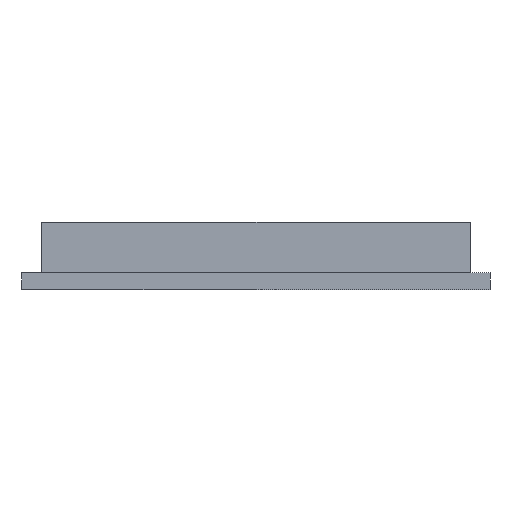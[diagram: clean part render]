
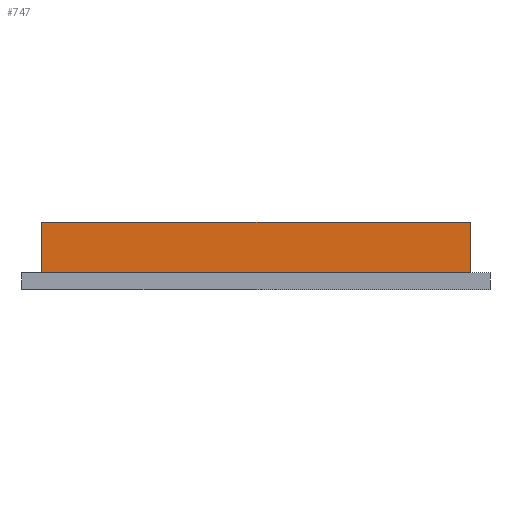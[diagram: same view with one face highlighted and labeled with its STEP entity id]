
A CAD part, left-side view. The second image highlights one B-rep face of the part: STEP entity #747.
In plain terms, the highlighted planar face has unit normal (-1, 0, 0).
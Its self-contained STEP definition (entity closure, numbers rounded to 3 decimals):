
#126 = PLANE('',#127);
#127 = AXIS2_PLACEMENT_3D('',#128,#129,#130);
#128 = CARTESIAN_POINT('',(-47.5,-41.55,1.5));
#129 = DIRECTION('',(0.,0.,1.));
#130 = DIRECTION('',(1.,0.,0.));
#266 = VERTEX_POINT('',#267);
#267 = CARTESIAN_POINT('',(-40.85,-38.,1.5));
#283 = PLANE('',#284);
#284 = AXIS2_PLACEMENT_3D('',#285,#286,#287);
#285 = CARTESIAN_POINT('',(-40.85,-38.,1.5));
#286 = DIRECTION('',(0.,1.,0.));
#287 = DIRECTION('',(1.,0.,0.));
#295 = EDGE_CURVE('',#296,#266,#298,.T.);
#296 = VERTEX_POINT('',#297);
#297 = CARTESIAN_POINT('',(-40.85,38.,1.5));
#298 = SURFACE_CURVE('',#299,(#303,#310),.PCURVE_S1.);
#299 = LINE('',#300,#301);
#300 = CARTESIAN_POINT('',(-40.85,38.,1.5));
#301 = VECTOR('',#302,1.);
#302 = DIRECTION('',(0.,-1.,0.));
#303 = PCURVE('',#126,#304);
#304 = DEFINITIONAL_REPRESENTATION('',(#305),#309);
#305 = LINE('',#306,#307);
#306 = CARTESIAN_POINT('',(6.65,79.55));
#307 = VECTOR('',#308,1.);
#308 = DIRECTION('',(0.,-1.));
#309 = ( GEOMETRIC_REPRESENTATION_CONTEXT(2) 
PARAMETRIC_REPRESENTATION_CONTEXT() REPRESENTATION_CONTEXT('2D SPACE',''
  ) );
#310 = PCURVE('',#311,#316);
#311 = PLANE('',#312);
#312 = AXIS2_PLACEMENT_3D('',#313,#314,#315);
#313 = CARTESIAN_POINT('',(-40.85,38.,1.5));
#314 = DIRECTION('',(1.,0.,-0.));
#315 = DIRECTION('',(0.,-1.,0.));
#316 = DEFINITIONAL_REPRESENTATION('',(#317),#321);
#317 = LINE('',#318,#319);
#318 = CARTESIAN_POINT('',(0.,0.));
#319 = VECTOR('',#320,1.);
#320 = DIRECTION('',(1.,0.));
#321 = ( GEOMETRIC_REPRESENTATION_CONTEXT(2) 
PARAMETRIC_REPRESENTATION_CONTEXT() REPRESENTATION_CONTEXT('2D SPACE',''
  ) );
#339 = PLANE('',#340);
#340 = AXIS2_PLACEMENT_3D('',#341,#342,#343);
#341 = CARTESIAN_POINT('',(-35.15,38.,1.5));
#342 = DIRECTION('',(0.,-1.,0.));
#343 = DIRECTION('',(-1.,0.,0.));
#577 = EDGE_CURVE('',#266,#578,#580,.T.);
#578 = VERTEX_POINT('',#579);
#579 = CARTESIAN_POINT('',(-40.85,-38.,10.4));
#580 = SURFACE_CURVE('',#581,(#585,#592),.PCURVE_S1.);
#581 = LINE('',#582,#583);
#582 = CARTESIAN_POINT('',(-40.85,-38.,1.5));
#583 = VECTOR('',#584,1.);
#584 = DIRECTION('',(0.,0.,1.));
#585 = PCURVE('',#283,#586);
#586 = DEFINITIONAL_REPRESENTATION('',(#587),#591);
#587 = LINE('',#588,#589);
#588 = CARTESIAN_POINT('',(0.,0.));
#589 = VECTOR('',#590,1.);
#590 = DIRECTION('',(0.,-1.));
#591 = ( GEOMETRIC_REPRESENTATION_CONTEXT(2) 
PARAMETRIC_REPRESENTATION_CONTEXT() REPRESENTATION_CONTEXT('2D SPACE',''
  ) );
#592 = PCURVE('',#311,#593);
#593 = DEFINITIONAL_REPRESENTATION('',(#594),#598);
#594 = LINE('',#595,#596);
#595 = CARTESIAN_POINT('',(76.,0.));
#596 = VECTOR('',#597,1.);
#597 = DIRECTION('',(0.,-1.));
#598 = ( GEOMETRIC_REPRESENTATION_CONTEXT(2) 
PARAMETRIC_REPRESENTATION_CONTEXT() REPRESENTATION_CONTEXT('2D SPACE',''
  ) );
#616 = PLANE('',#617);
#617 = AXIS2_PLACEMENT_3D('',#618,#619,#620);
#618 = CARTESIAN_POINT('',(-38.,0.,10.4));
#619 = DIRECTION('',(0.,0.,1.));
#620 = DIRECTION('',(1.,0.,-0.));
#704 = VERTEX_POINT('',#705);
#705 = CARTESIAN_POINT('',(-40.85,38.,10.4));
#726 = EDGE_CURVE('',#296,#704,#727,.T.);
#727 = SURFACE_CURVE('',#728,(#732,#739),.PCURVE_S1.);
#728 = LINE('',#729,#730);
#729 = CARTESIAN_POINT('',(-40.85,38.,1.5));
#730 = VECTOR('',#731,1.);
#731 = DIRECTION('',(0.,0.,1.));
#732 = PCURVE('',#339,#733);
#733 = DEFINITIONAL_REPRESENTATION('',(#734),#738);
#734 = LINE('',#735,#736);
#735 = CARTESIAN_POINT('',(5.7,0.));
#736 = VECTOR('',#737,1.);
#737 = DIRECTION('',(0.,-1.));
#738 = ( GEOMETRIC_REPRESENTATION_CONTEXT(2) 
PARAMETRIC_REPRESENTATION_CONTEXT() REPRESENTATION_CONTEXT('2D SPACE',''
  ) );
#739 = PCURVE('',#311,#740);
#740 = DEFINITIONAL_REPRESENTATION('',(#741),#745);
#741 = LINE('',#742,#743);
#742 = CARTESIAN_POINT('',(0.,0.));
#743 = VECTOR('',#744,1.);
#744 = DIRECTION('',(0.,-1.));
#745 = ( GEOMETRIC_REPRESENTATION_CONTEXT(2) 
PARAMETRIC_REPRESENTATION_CONTEXT() REPRESENTATION_CONTEXT('2D SPACE',''
  ) );
#747 = ADVANCED_FACE('',(#748),#311,.F.);
#748 = FACE_BOUND('',#749,.F.);
#749 = EDGE_LOOP('',(#750,#751,#772,#773));
#750 = ORIENTED_EDGE('',*,*,#726,.T.);
#751 = ORIENTED_EDGE('',*,*,#752,.T.);
#752 = EDGE_CURVE('',#704,#578,#753,.T.);
#753 = SURFACE_CURVE('',#754,(#758,#765),.PCURVE_S1.);
#754 = LINE('',#755,#756);
#755 = CARTESIAN_POINT('',(-40.85,38.,10.4));
#756 = VECTOR('',#757,1.);
#757 = DIRECTION('',(0.,-1.,0.));
#758 = PCURVE('',#311,#759);
#759 = DEFINITIONAL_REPRESENTATION('',(#760),#764);
#760 = LINE('',#761,#762);
#761 = CARTESIAN_POINT('',(0.,-8.9));
#762 = VECTOR('',#763,1.);
#763 = DIRECTION('',(1.,0.));
#764 = ( GEOMETRIC_REPRESENTATION_CONTEXT(2) 
PARAMETRIC_REPRESENTATION_CONTEXT() REPRESENTATION_CONTEXT('2D SPACE',''
  ) );
#765 = PCURVE('',#616,#766);
#766 = DEFINITIONAL_REPRESENTATION('',(#767),#771);
#767 = LINE('',#768,#769);
#768 = CARTESIAN_POINT('',(-2.85,38.));
#769 = VECTOR('',#770,1.);
#770 = DIRECTION('',(0.,-1.));
#771 = ( GEOMETRIC_REPRESENTATION_CONTEXT(2) 
PARAMETRIC_REPRESENTATION_CONTEXT() REPRESENTATION_CONTEXT('2D SPACE',''
  ) );
#772 = ORIENTED_EDGE('',*,*,#577,.F.);
#773 = ORIENTED_EDGE('',*,*,#295,.F.);
